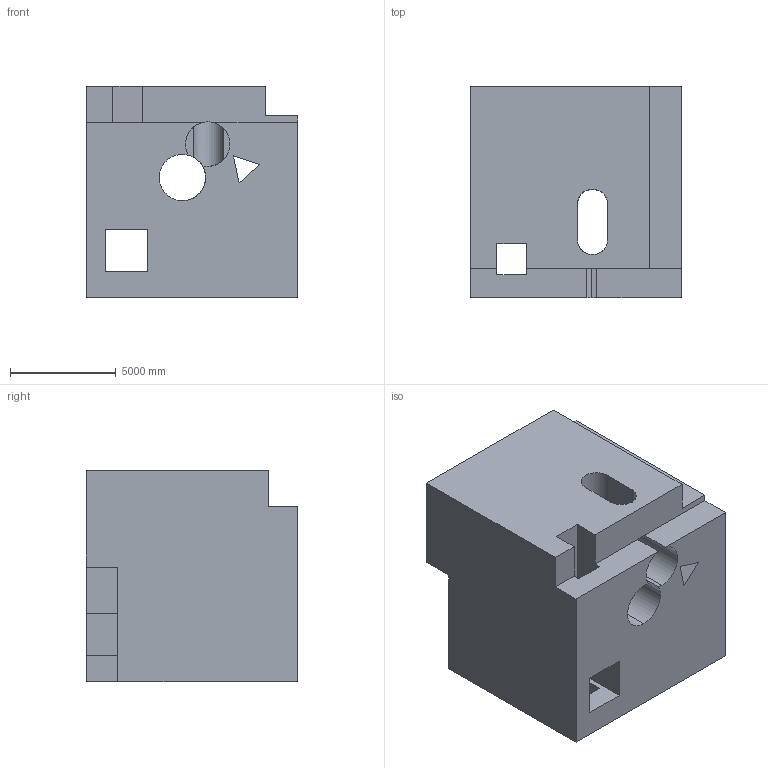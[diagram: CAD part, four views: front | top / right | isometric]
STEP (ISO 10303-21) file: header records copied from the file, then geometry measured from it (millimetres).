
FILE_DESCRIPTION (( 'STEP AP203' ), '1' );
FILE_NAME ('192.STEP', '2022-08-31T12:20:58', ( 'user' ), ( '' ), 'SwSTEP 2.0', 'SolidWorks 2021', '' );
FILE_SCHEMA (( 'CONFIG_CONTROL_DESIGN' ));
Length unit declared in the file: centimetre
Products named in the file (1): 192
Bounding box: 10000 x 10000 x 10000 mm (x, y, z)
Volume: 786501914819 mm3; surface area: 870703848.4 mm2
Topology: 1 solids, 1 shells, 47 faces, 147 edges, 98 vertices
Faces by surface type: plane 37, cylinder 10
Entity records: 2208 total; most frequent: CARTESIAN_POINT 786, ORIENTED_EDGE 294, DIRECTION 258, EDGE_CURVE 147, LINE 120, VECTOR 120, VERTEX_POINT 98, AXIS2_PLACEMENT_3D 69
